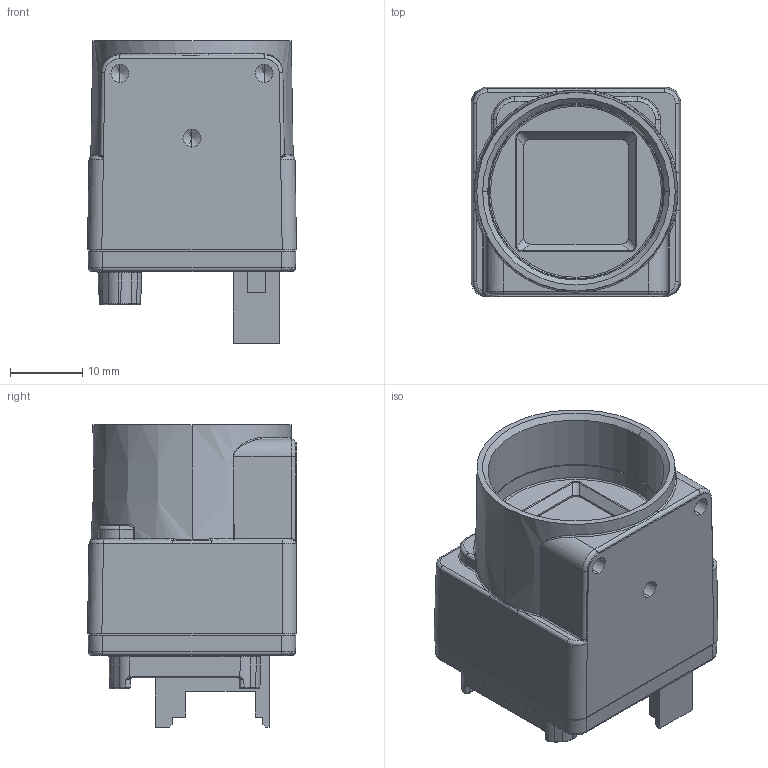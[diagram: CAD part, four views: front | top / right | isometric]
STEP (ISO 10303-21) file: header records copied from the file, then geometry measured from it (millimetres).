
FILE_DESCRIPTION (( 'STEP AP214' ), '1' );
FILE_NAME ('BU406M-1768221027.STEP', '2022-10-27T11:23:19', ( '' ), ( '' ), 'SwSTEP 2.0', 'SolidWorks 2020', '' );
FILE_SCHEMA (( 'AUTOMOTIVE_DESIGN' ));
Length unit declared in the file: millimetre
Products named in the file (1): BU406M-1768221027
Bounding box: 29 x 29 x 41.95 mm (x, y, z)
Volume: 19182.2 mm3; surface area: 8456.6 mm2
Topology: 6 solids, 6 shells, 1644 faces, 4409 edges, 2824 vertices
Faces by surface type: plane 1071, cylinder 349, bspline 147, torus 39, cone 32, sphere 6
Entity records: 71967 total; most frequent: CARTESIAN_POINT 15384, ORIENTED_EDGE 8786, DIRECTION 6916, EDGE_CURVE 4393, VECTOR 2920, LINE 2920, VERTEX_POINT 2824, AXIS2_PLACEMENT_3D 1998
